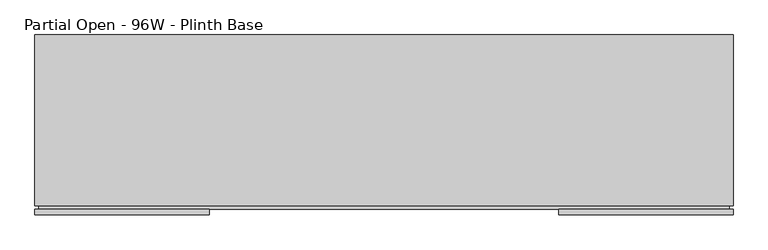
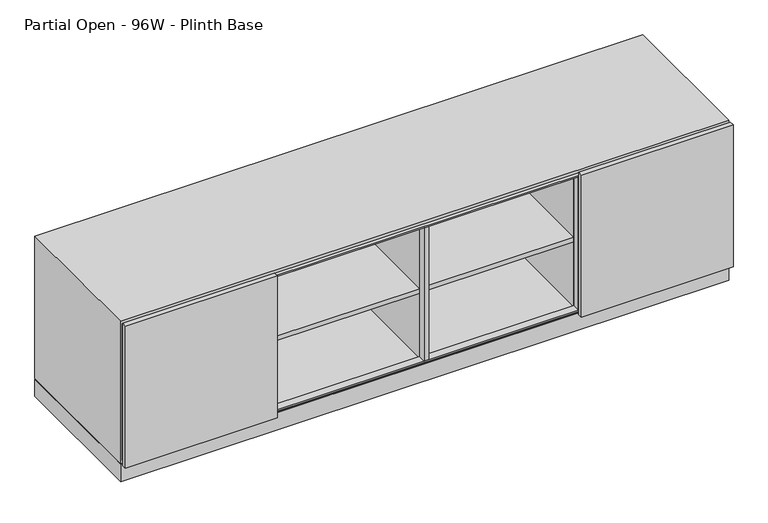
"""IFC4 building model written with IfcOpenShell, lengths in millimetres: furniture geometry, Steelcase Coalesse - Exponents - Storage - Credenza - 27H : Partial Open - 96W - Plinth Base."""

from ifc_helpers import new_model, si_unit, point, frame, frame_2d, origin, origin_with_axes, place, context, project, spatial, polyline, circle_curve, trimmed, segment, composite_curve, outline, extrude, faceted_brep, source, transform, mapped, element, save


def partial_open_96w_plinth_base_e559e601(model_context):
    return source(origin(), model_context, "Body", "SolidModel", [
        faceted_brep([(6.35, 31.75, 673.1), (6.35, 31.75, 95.25), (6.35, 622.3, 95.25), (6.35, 622.3, 673.1), (2432.05, 622.3, 95.25), (2432.05, 622.3, 673.1), (2432.05, 31.75, 95.25), (2432.05, 31.75, 673.1), (0.0, 31.75, 82.55), (2438.4, 31.75, 82.55), (2438.4, 31.75, 685.8), (0.0, 31.75, 685.8), (2438.4, 628.65, 82.55), (2438.4, 628.65, 685.8), (0.0, 628.65, 82.55), (0.0, 628.65, 685.8)], [[[0, 1, 2, 3]], [[3, 2, 4, 5]], [[5, 4, 6, 7]], [[8, 9, 10, 11], [7, 6, 1, 0]], [[10, 9, 12, 13]], [[13, 12, 14, 15]], [[15, 14, 8, 11]], [[7, 0, 3, 5]], [[10, 13, 15, 11]], [[1, 6, 4, 2]], [[12, 9, 8, 14]]]),
        extrude(outline(polyline([(673.1, 2425.7), (673.1, 12.7), (95.25, 12.7), (95.25, 2425.7), (673.1, 2425.7)]), holes=[polyline([(666.75, 2419.35), (101.6, 2419.35), (101.6, 19.05), (666.75, 19.05), (666.75, 2419.35)])]), frame((0.0, 19.05, 0.0), z_axis=(0.0, 1.0, 0.0), x_axis=(0.0, 0.0, 1.0)), (0.0, 0.0, 1.0), 31.75),
        extrude(outline(composite_curve([segment(trimmed(circle_curve(frame_2d((19.05, 593.5667033)), 6.35), [point((12.7, 593.5667033))], [point((25.4, 593.5667033))], False, "CARTESIAN"), True, "CONTINUOUS"), segment(trimmed(circle_curve(frame_2d((19.05, 593.5667033)), 6.35), [point((25.4, 593.5667033))], [point((12.7, 593.5667033))], False, "CARTESIAN"), True, "CONTINUOUS")], self_intersect=False)), origin_with_axes(), (0.0, 0.0, 1.0), 6.35),
        extrude(outline(composite_curve([segment(trimmed(circle_curve(frame_2d((19.05, 66.7867854)), 6.35), [point((12.7, 66.7867854))], [point((25.4, 66.7867854))], False, "CARTESIAN"), True, "CONTINUOUS"), segment(trimmed(circle_curve(frame_2d((19.05, 66.7867854)), 6.35), [point((25.4, 66.7867854))], [point((12.7, 66.7867854))], False, "CARTESIAN"), True, "CONTINUOUS")], self_intersect=False)), origin_with_axes(), (0.0, 0.0, 1.0), 6.35),
        extrude(outline(composite_curve([segment(trimmed(circle_curve(frame_2d((2419.35, 593.5667033)), 6.35), [point((2413.0, 593.5667033))], [point((2425.7, 593.5667033))], False, "CARTESIAN"), True, "CONTINUOUS"), segment(trimmed(circle_curve(frame_2d((2419.35, 593.5667033)), 6.35), [point((2425.7, 593.5667033))], [point((2413.0, 593.5667033))], False, "CARTESIAN"), True, "CONTINUOUS")], self_intersect=False)), origin_with_axes(), (0.0, 0.0, 1.0), 6.35),
        extrude(outline(composite_curve([segment(trimmed(circle_curve(frame_2d((2419.35, 66.7867854)), 6.35), [point((2413.0, 66.7867854))], [point((2425.7, 66.7867854))], False, "CARTESIAN"), True, "CONTINUOUS"), segment(trimmed(circle_curve(frame_2d((2419.35, 66.7867854)), 6.35), [point((2425.7, 66.7867854))], [point((2413.0, 66.7867854))], False, "CARTESIAN"), True, "CONTINUOUS")], self_intersect=False)), origin_with_axes(), (0.0, 0.0, 1.0), 6.35),
        extrude(outline(polyline([(2438.4, 19.05), (2438.4, 0.0), (1829.435, 0.0), (1829.435, 19.05), (2438.4, 19.05)])), frame((0.0, 0.0, 82.55), z_axis=(0.0, 0.0, 1.0), x_axis=(1.0, 0.0, 0.0)), (0.0, 0.0, 1.0), 603.25),
        extrude(outline(polyline([(608.965, 19.05), (608.965, 0.0), (0.0, 0.0), (0.0, 19.05), (608.965, 19.05)])), frame((0.0, 0.0, 82.55), z_axis=(0.0, 0.0, 1.0), x_axis=(1.0, 0.0, 0.0)), (0.0, 0.0, 1.0), 603.25),
        extrude(outline(polyline([(0.0, -19.05), (0.0, 0.0), (31.75, 0.0), (31.75, -19.05), (0.0, -19.05)])), frame((1828.8, 19.05, 101.6), z_axis=(2.934541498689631e-12, 0.0, 1.0), x_axis=(0.0, 1.0, 0.0)), (0.0, 0.0, 1.0), 565.15),
        extrude(outline(polyline([(0.0, -19.05), (0.0, 0.0), (31.75, 0.0), (31.75, -19.05), (0.0, -19.05)])), frame((1209.675, 19.05, 101.6), z_axis=(3.1477043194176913e-12, 0.0, 1.0), x_axis=(0.0, 1.0, 0.0)), (0.0, 0.0, 1.0), 565.15),
        extrude(outline(polyline([(0.0, -19.05), (0.0, 0.0), (31.75, 0.0), (31.75, -19.05), (0.0, -19.05)])), frame((590.55, 19.05, 101.6), z_axis=(3.3608671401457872e-12, 0.0, 1.0), x_axis=(0.0, 1.0, 0.0)), (0.0, 0.0, 1.0), 565.15),
        extrude(outline(polyline([(1209.675, 609.6), (1228.725, 609.6), (1228.725, 50.8), (1209.675, 50.8), (1209.675, 609.6)])), frame((0.0, 0.0, 95.25), z_axis=(0.0, 0.0, 1.0), x_axis=(1.0, 0.0, 0.0)), (0.0, 0.0, 1.0), 577.85),
        extrude(outline(polyline([(1828.8, 609.6), (1847.85, 609.6), (1847.85, 50.8), (1828.8, 50.8), (1828.8, 609.6)])), frame((0.0, 0.0, 95.25), z_axis=(0.0, 0.0, 1.0), x_axis=(1.0, 0.0, 0.0)), (0.0, 0.0, 1.0), 577.85),
        extrude(outline(polyline([(1828.8, 50.8), (1228.725, 50.8), (1228.725, 609.6), (1828.8, 609.6), (1828.8, 50.8)])), frame((0.0, 0.0, 371.475), z_axis=(0.0, 0.0, 1.0), x_axis=(1.0, 0.0, 0.0)), (0.0, 0.0, 1.0), 19.05),
        extrude(outline(polyline([(1209.675, 50.8), (609.6, 50.8), (609.6, 609.6), (1209.675, 609.6), (1209.675, 50.8)])), frame((0.0, 0.0, 371.475), z_axis=(0.0, 0.0, 1.0), x_axis=(1.0, 0.0, 0.0)), (0.0, 0.0, 1.0), 19.05),
        extrude(outline(polyline([(2438.4, 628.65), (2438.4, 31.75), (0.0, 31.75), (0.0, 628.65), (2438.4, 628.65)]), holes=[polyline([(2419.35, 622.3), (19.05, 622.3), (19.05, 38.1), (2419.35, 38.1), (2419.35, 622.3)])]), frame((0.0, 0.0, 6.35), z_axis=(0.0, 0.0, 1.0), x_axis=(1.0, 0.0, 0.0)), (0.0, 0.0, 1.0), 73.4568),
        extrude(outline(polyline([(590.55, 609.6), (609.6, 609.6), (609.6, 50.8), (590.55, 50.8), (590.55, 609.6)])), frame((0.0, 0.0, 95.25), z_axis=(0.0, 0.0, 1.0), x_axis=(1.0, 0.0, 0.0)), (0.0, 0.0, 1.0), 577.85),
    ])


if __name__ == "__main__":
    model = new_model("IFC4")
    model_context = context("Model", 3, world=origin())
    ifc_project = project(units=[si_unit("LENGTHUNIT", "METRE", prefix="MILLI")], contexts=[model_context])
    site = spatial("IfcSite", under=ifc_project)
    building = spatial("IfcBuilding", under=site)
    placement = place(None, origin())
    partial_open_96w_plinth_base_shape = partial_open_96w_plinth_base_e559e601(model_context)
    element("IfcFurniture", 1, ObjectType="Steelcase Coalesse - Exponents - Storage - Credenza - 27H : Partial Open - 96W - Plinth Base", at=placement, inside=building, context=model_context, shape_type="MappedRepresentation", body=[
        mapped(partial_open_96w_plinth_base_shape, transform((0.0, 0.0, 0.0), x_axis=(1.0, 0.0, 0.0), y_axis=(0.0, 1.0, 0.0), z_axis=(0.0, 0.0, 1.0))),
    ])
    save(model, "model.ifc")
